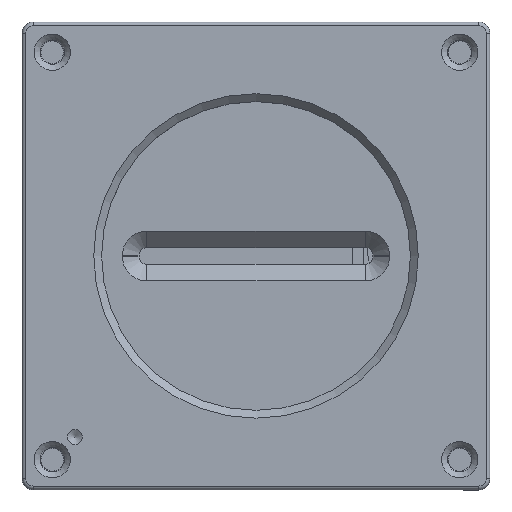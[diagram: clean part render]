
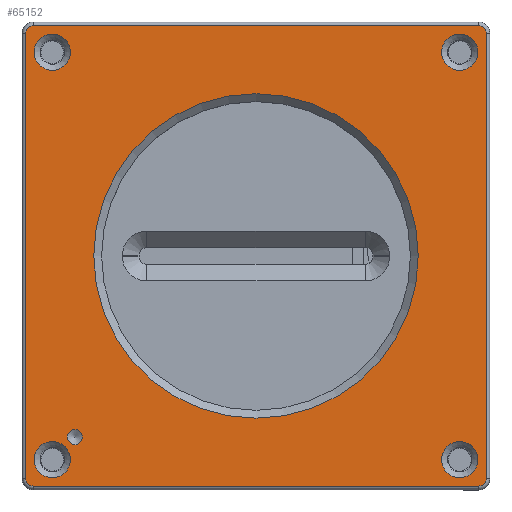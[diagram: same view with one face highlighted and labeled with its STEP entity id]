
A CAD part, top view. The second image highlights one B-rep face of the part: STEP entity #65152.
In plain terms, the highlighted planar face has unit normal (0, 0, 1).
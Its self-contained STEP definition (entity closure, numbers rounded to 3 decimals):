
#6486=FACE_BOUND($,#10928,.T.);
#6487=FACE_BOUND($,#10929,.T.);
#6488=FACE_BOUND($,#10930,.T.);
#6489=FACE_BOUND($,#10931,.T.);
#6490=FACE_BOUND($,#10932,.T.);
#6491=FACE_BOUND($,#10933,.T.);
#7320=FACE_OUTER_BOUND($,#10927,.T.);
#10927=EDGE_LOOP($,(#45622,#45623,#45624,#45625,#45626,#45627,#45628,#45629));
#10928=EDGE_LOOP($,(#45630));
#10929=EDGE_LOOP($,(#45631));
#10930=EDGE_LOOP($,(#45632));
#10931=EDGE_LOOP($,(#45633));
#10932=EDGE_LOOP($,(#45634));
#10933=EDGE_LOOP($,(#45635));
#14625=CIRCLE($,#68784,2.4);
#14629=CIRCLE($,#68791,2.4);
#14633=CIRCLE($,#68798,2.4);
#14637=CIRCLE($,#68805,2.4);
#14641=CIRCLE($,#68812,21.5);
#14642=CIRCLE($,#68814,1.);
#14654=CIRCLE($,#68836,1.);
#14657=CIRCLE($,#68841,1.);
#14660=CIRCLE($,#68846,1.);
#14663=CIRCLE($,#68851,1.);
#15537=LINE($,#87749,#22352);
#15538=LINE($,#87757,#22353);
#15539=LINE($,#87765,#22354);
#15540=LINE($,#87771,#22355);
#22352=VECTOR($,#73077,59.);
#22353=VECTOR($,#73088,59.);
#22354=VECTOR($,#73099,59.);
#22355=VECTOR($,#73108,59.);
#29210=VERTEX_POINT($,#87646);
#29214=VERTEX_POINT($,#87657);
#29218=VERTEX_POINT($,#87668);
#29222=VERTEX_POINT($,#87679);
#29226=VERTEX_POINT($,#87690);
#29227=VERTEX_POINT($,#87693);
#29243=VERTEX_POINT($,#87741);
#29244=VERTEX_POINT($,#87743);
#29245=VERTEX_POINT($,#87747);
#29246=VERTEX_POINT($,#87751);
#29247=VERTEX_POINT($,#87755);
#29248=VERTEX_POINT($,#87759);
#29249=VERTEX_POINT($,#87763);
#29250=VERTEX_POINT($,#87767);
#35569=EDGE_CURVE($,#29210,#29210,#14625,.T.);
#35573=EDGE_CURVE($,#29214,#29214,#14629,.T.);
#35577=EDGE_CURVE($,#29218,#29218,#14633,.T.);
#35581=EDGE_CURVE($,#29222,#29222,#14637,.T.);
#35585=EDGE_CURVE($,#29226,#29226,#14641,.T.);
#35586=EDGE_CURVE($,#29227,#29227,#14642,.T.);
#35610=EDGE_CURVE($,#29244,#29243,#14654,.T.);
#35612=EDGE_CURVE($,#29245,#29244,#15537,.T.);
#35614=EDGE_CURVE($,#29246,#29245,#14657,.T.);
#35616=EDGE_CURVE($,#29247,#29246,#15538,.T.);
#35618=EDGE_CURVE($,#29248,#29247,#14660,.T.);
#35620=EDGE_CURVE($,#29249,#29248,#15539,.T.);
#35622=EDGE_CURVE($,#29250,#29249,#14663,.T.);
#35623=EDGE_CURVE($,#29243,#29250,#15540,.T.);
#45622=ORIENTED_EDGE($,*,*,#35623,.F.);
#45623=ORIENTED_EDGE($,*,*,#35610,.F.);
#45624=ORIENTED_EDGE($,*,*,#35612,.F.);
#45625=ORIENTED_EDGE($,*,*,#35614,.F.);
#45626=ORIENTED_EDGE($,*,*,#35616,.F.);
#45627=ORIENTED_EDGE($,*,*,#35618,.F.);
#45628=ORIENTED_EDGE($,*,*,#35620,.F.);
#45629=ORIENTED_EDGE($,*,*,#35622,.F.);
#45630=ORIENTED_EDGE($,*,*,#35586,.T.);
#45631=ORIENTED_EDGE($,*,*,#35585,.T.);
#45632=ORIENTED_EDGE($,*,*,#35581,.T.);
#45633=ORIENTED_EDGE($,*,*,#35577,.T.);
#45634=ORIENTED_EDGE($,*,*,#35573,.T.);
#45635=ORIENTED_EDGE($,*,*,#35569,.T.);
#62663=PLANE($,#68937);
#65152=ADVANCED_FACE($,(#7320,#6486,#6487,#6488,#6489,#6490,#6491),#62663,
 .T.);
#68784=AXIS2_PLACEMENT_3D($,#87647,#72955,#72956);
#68791=AXIS2_PLACEMENT_3D($,#87658,#72969,#72970);
#68798=AXIS2_PLACEMENT_3D($,#87669,#72983,#72984);
#68805=AXIS2_PLACEMENT_3D($,#87680,#72997,#72998);
#68812=AXIS2_PLACEMENT_3D($,#87691,#73011,#73012);
#68814=AXIS2_PLACEMENT_3D($,#87694,#73015,#73016);
#68836=AXIS2_PLACEMENT_3D($,#87745,#73071,#73072);
#68841=AXIS2_PLACEMENT_3D($,#87753,#73082,#73083);
#68846=AXIS2_PLACEMENT_3D($,#87761,#73093,#73094);
#68851=AXIS2_PLACEMENT_3D($,#87769,#73104,#73105);
#68937=AXIS2_PLACEMENT_3D($,#87965,#73324,#73325);
#72955=DIRECTION('center_axis',(0.,0.,
-1.));
#72956=DIRECTION('ref_axis',(-1.,0.,0.));
#72969=DIRECTION('center_axis',(0.,0.,
-1.));
#72970=DIRECTION('ref_axis',(-1.,0.,0.));
#72983=DIRECTION('center_axis',(0.,0.,
-1.));
#72984=DIRECTION('ref_axis',(-1.,0.,0.));
#72997=DIRECTION('center_axis',(0.,0.,
-1.));
#72998=DIRECTION('ref_axis',(-1.,0.,0.));
#73011=DIRECTION('center_axis',(0.,0.,
-1.));
#73012=DIRECTION('ref_axis',(-1.,0.,0.));
#73015=DIRECTION('center_axis',(0.,0.,
-1.));
#73016=DIRECTION('ref_axis',(-1.,0.,0.));
#73071=DIRECTION('center_axis',(0.,0.,
-1.));
#73072=DIRECTION('ref_axis',(-0.707,-0.707,0.));
#73077=DIRECTION($,(-1.,0.,0.));
#73082=DIRECTION('center_axis',(0.,0.,
-1.));
#73083=DIRECTION('ref_axis',(0.707,-0.707,0.));
#73088=DIRECTION($,(0.,-1.,0.));
#73093=DIRECTION('center_axis',(0.,0.,
-1.));
#73094=DIRECTION('ref_axis',(0.707,0.707,0.));
#73099=DIRECTION($,(1.,0.,0.));
#73104=DIRECTION('center_axis',(0.,0.,
-1.));
#73105=DIRECTION('ref_axis',(-0.707,0.707,0.));
#73108=DIRECTION($,(0.,1.,0.));
#73324=DIRECTION('center_axis',(0.,0.,
1.));
#73325=DIRECTION('ref_axis',(-1.,0.,0.));
#87646=CARTESIAN_POINT('',(-29.4,-27.,0.));
#87647=CARTESIAN_POINT('Origin',(-27.,-27.,0.));
#87657=CARTESIAN_POINT('',(24.6,-27.,0.));
#87658=CARTESIAN_POINT('Origin',(27.,-27.,0.));
#87668=CARTESIAN_POINT('',(-29.4,27.,0.));
#87669=CARTESIAN_POINT('Origin',(-27.,27.,0.));
#87679=CARTESIAN_POINT('',(24.6,27.,0.));
#87680=CARTESIAN_POINT('Origin',(27.,27.,0.));
#87690=CARTESIAN_POINT('',(-21.5,0.,0.));
#87691=CARTESIAN_POINT('Origin',(0.,0.,
0.));
#87693=CARTESIAN_POINT('',(-25.,-24.,0.));
#87694=CARTESIAN_POINT('Origin',(-24.,-24.,0.));
#87741=CARTESIAN_POINT('',(-30.5,-29.5,0.));
#87743=CARTESIAN_POINT('',(-29.5,-30.5,0.));
#87745=CARTESIAN_POINT('Origin',(-29.5,-29.5,0.));
#87747=CARTESIAN_POINT('',(29.5,-30.5,0.));
#87749=CARTESIAN_POINT($,(-15.5,-30.5,0.));
#87751=CARTESIAN_POINT('',(30.5,-29.5,0.));
#87753=CARTESIAN_POINT('Origin',(29.5,-29.5,0.));
#87755=CARTESIAN_POINT('',(30.5,29.5,0.));
#87757=CARTESIAN_POINT($,(30.5,-15.5,0.));
#87759=CARTESIAN_POINT('',(29.5,30.5,0.));
#87761=CARTESIAN_POINT('Origin',(29.5,29.5,0.));
#87763=CARTESIAN_POINT('',(-29.5,30.5,0.));
#87765=CARTESIAN_POINT($,(15.5,30.5,0.));
#87767=CARTESIAN_POINT('',(-30.5,29.5,0.));
#87769=CARTESIAN_POINT('Origin',(-29.5,29.5,0.));
#87771=CARTESIAN_POINT($,(-30.5,15.5,0.));
#87965=CARTESIAN_POINT('Origin',(0.,0.,
0.));
